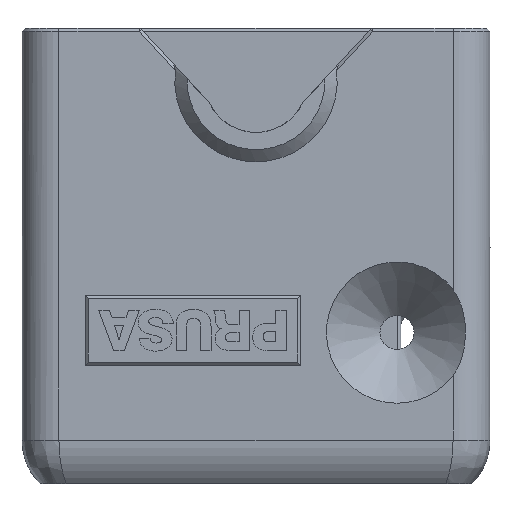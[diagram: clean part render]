
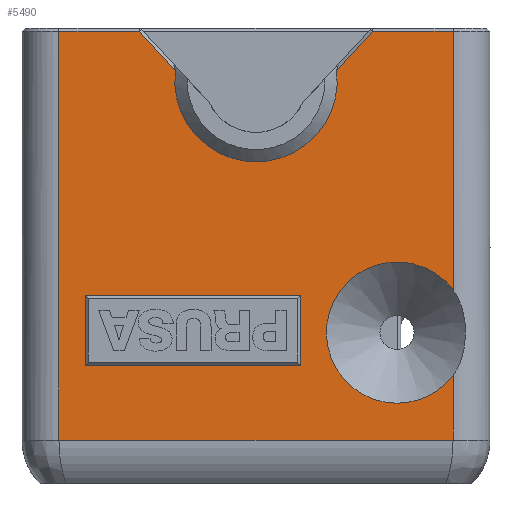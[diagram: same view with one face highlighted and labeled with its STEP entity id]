
A CAD part, front view. The second image highlights one B-rep face of the part: STEP entity #5490.
In plain terms, the highlighted planar face has unit normal (0, -1, 0).
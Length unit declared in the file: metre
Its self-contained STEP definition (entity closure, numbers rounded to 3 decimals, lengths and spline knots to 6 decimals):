
#347=CIRCLE('',#5837,0.006596);
#348=CIRCLE('',#5838,0.005734);
#502=ORIENTED_EDGE('',*,*,#2204,.T.);
#503=ORIENTED_EDGE('',*,*,#2205,.T.);
#504=ORIENTED_EDGE('',*,*,#2206,.T.);
#505=ORIENTED_EDGE('',*,*,#2207,.T.);
#506=ORIENTED_EDGE('',*,*,#2208,.T.);
#507=ORIENTED_EDGE('',*,*,#2209,.T.);
#508=ORIENTED_EDGE('',*,*,#2210,.F.);
#509=ORIENTED_EDGE('',*,*,#2211,.T.);
#510=ORIENTED_EDGE('',*,*,#2212,.T.);
#511=ORIENTED_EDGE('',*,*,#2213,.T.);
#512=ORIENTED_EDGE('',*,*,#2214,.T.);
#513=ORIENTED_EDGE('',*,*,#2215,.T.);
#514=ORIENTED_EDGE('',*,*,#2216,.T.);
#515=ORIENTED_EDGE('',*,*,#2217,.T.);
#2204=EDGE_CURVE('',#3055,#3056,#3576,.T.);
#2205=EDGE_CURVE('',#3056,#3057,#3577,.T.);
#2206=EDGE_CURVE('',#3057,#3058,#3578,.T.);
#2207=EDGE_CURVE('',#3058,#3055,#3579,.T.);
#2208=EDGE_CURVE('',#3059,#3060,#3580,.T.);
#2209=EDGE_CURVE('',#3060,#3061,#3581,.T.);
#2210=EDGE_CURVE('',#3062,#3061,#347,.T.);
#2211=EDGE_CURVE('',#3062,#3063,#3582,.T.);
#2212=EDGE_CURVE('',#3063,#3064,#3583,.T.);
#2213=EDGE_CURVE('',#3064,#3065,#3584,.T.);
#2214=EDGE_CURVE('',#3065,#3066,#3585,.F.);
#2215=EDGE_CURVE('',#3066,#3067,#3586,.F.);
#2216=EDGE_CURVE('',#3067,#3068,#348,.T.);
#2217=EDGE_CURVE('',#3068,#3059,#3587,.F.);
#3055=VERTEX_POINT('',#7838);
#3056=VERTEX_POINT('',#7839);
#3057=VERTEX_POINT('',#7841);
#3058=VERTEX_POINT('',#7843);
#3059=VERTEX_POINT('',#7846);
#3060=VERTEX_POINT('',#7847);
#3061=VERTEX_POINT('',#7849);
#3062=VERTEX_POINT('',#7851);
#3063=VERTEX_POINT('',#7853);
#3064=VERTEX_POINT('',#7855);
#3065=VERTEX_POINT('',#7857);
#3066=VERTEX_POINT('',#7859);
#3067=VERTEX_POINT('',#7861);
#3068=VERTEX_POINT('',#7863);
#3576=LINE('',#7837,#4100);
#3577=LINE('',#7840,#4101);
#3578=LINE('',#7842,#4102);
#3579=LINE('',#7844,#4103);
#3580=LINE('',#7845,#4104);
#3581=LINE('',#7848,#4105);
#3582=LINE('',#7852,#4106);
#3583=LINE('',#7854,#4107);
#3584=LINE('',#7856,#4108);
#3585=LINE('',#7858,#4109);
#3586=LINE('',#7860,#4110);
#3587=LINE('',#7864,#4111);
#4100=VECTOR('',#6331,1.);
#4101=VECTOR('',#6332,1.);
#4102=VECTOR('',#6333,1.);
#4103=VECTOR('',#6334,1.);
#4104=VECTOR('',#6335,1.);
#4105=VECTOR('',#6336,1.);
#4106=VECTOR('',#6339,1.);
#4107=VECTOR('',#6340,1.);
#4108=VECTOR('',#6341,1.);
#4109=VECTOR('',#6342,1.);
#4110=VECTOR('',#6343,1.);
#4111=VECTOR('',#6346,1.);
#4624=EDGE_LOOP('',(#502,#503,#504,#505));
#4625=EDGE_LOOP('',(#506,#507,#508,#509,#510,#511,#512,#513,#514,#515));
#4972=FACE_BOUND('',#4624,.T.);
#4973=FACE_BOUND('',#4625,.T.);
#5320=PLANE('',#5836);
#5490=ADVANCED_FACE('',(#4972,#4973),#5320,.F.);
#5836=AXIS2_PLACEMENT_3D('',#7836,#6329,#6330);
#5837=AXIS2_PLACEMENT_3D('',#7850,#6337,#6338);
#5838=AXIS2_PLACEMENT_3D('',#7862,#6344,#6345);
#6329=DIRECTION('',(0.,1.,0.));
#6330=DIRECTION('',(0.,0.,1.));
#6331=DIRECTION('',(-1.,0.,0.));
#6332=DIRECTION('',(0.,0.,1.));
#6333=DIRECTION('',(1.,0.,0.));
#6334=DIRECTION('',(0.,0.,-1.));
#6335=DIRECTION('',(-1.,0.,0.));
#6336=DIRECTION('',(-0.679,0.,-0.734));
#6337=DIRECTION('',(0.,-1.,0.));
#6338=DIRECTION('',(0.,0.,-1.));
#6339=DIRECTION('',(-0.679,0.,0.734));
#6340=DIRECTION('',(-1.,0.,0.));
#6341=DIRECTION('',(0.,0.,-1.));
#6342=DIRECTION('',(-1.,0.,0.));
#6343=DIRECTION('',(0.,0.,-1.));
#6344=DIRECTION('',(0.,1.,0.));
#6345=DIRECTION('',(0.,0.,1.));
#6346=DIRECTION('',(0.,0.,-1.));
#7836=CARTESIAN_POINT('',(0.019,-0.0053,0.011));
#7837=CARTESIAN_POINT('',(-0.013629,-0.0053,-0.012099));
#7838=CARTESIAN_POINT('',(0.00365,-0.0053,-0.012099));
#7839=CARTESIAN_POINT('',(-0.013879,-0.0053,-0.012099));
#7840=CARTESIAN_POINT('',(-0.013879,-0.0053,-0.006655));
#7841=CARTESIAN_POINT('',(-0.013879,-0.0053,-0.006405));
#7842=CARTESIAN_POINT('',(0.0034,-0.0053,-0.006405));
#7843=CARTESIAN_POINT('',(0.00365,-0.0053,-0.006405));
#7844=CARTESIAN_POINT('',(0.00365,-0.0053,-0.011849));
#7845=CARTESIAN_POINT('',(0.019,-0.0053,0.015));
#7846=CARTESIAN_POINT('',(0.016,-0.0053,0.015));
#7847=CARTESIAN_POINT('',(0.009486,-0.0053,0.015));
#7848=CARTESIAN_POINT('',(0.006681,-0.0053,0.011966));
#7849=CARTESIAN_POINT('',(0.006545,-0.0053,0.011819));
#7850=CARTESIAN_POINT('',(0.,-0.0053,0.011));
#7851=CARTESIAN_POINT('',(-0.006545,-0.0053,0.011819));
#7852=CARTESIAN_POINT('',(0.005636,-0.0053,-0.001356));
#7853=CARTESIAN_POINT('',(-0.009486,-0.0053,0.015));
#7854=CARTESIAN_POINT('',(0.019,-0.0053,0.015));
#7855=CARTESIAN_POINT('',(-0.016,-0.0053,0.015));
#7856=CARTESIAN_POINT('',(-0.016,-0.0053,0.011));
#7857=CARTESIAN_POINT('',(-0.016,-0.0053,-0.018179));
#7858=CARTESIAN_POINT('',(0.019,-0.0053,-0.018179));
#7859=CARTESIAN_POINT('',(0.016,-0.0053,-0.018179));
#7860=CARTESIAN_POINT('',(0.016,-0.0053,0.02025));
#7861=CARTESIAN_POINT('',(0.016,-0.0053,-0.01294));
#7862=CARTESIAN_POINT('',(0.01145,-0.0053,-0.00945));
#7863=CARTESIAN_POINT('',(0.016,-0.0053,-0.00596));
#7864=CARTESIAN_POINT('',(0.016,-0.0053,0.02025));
